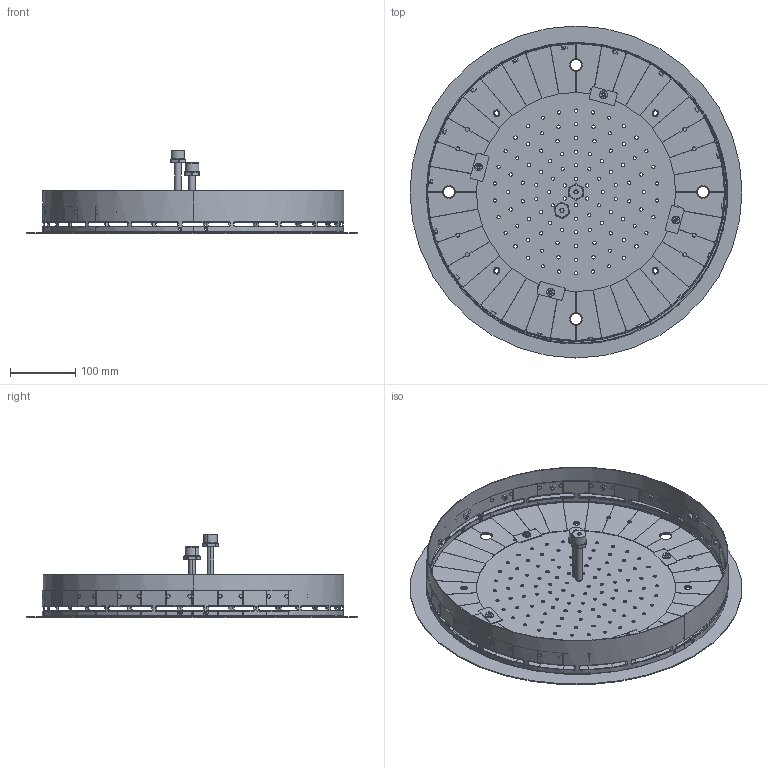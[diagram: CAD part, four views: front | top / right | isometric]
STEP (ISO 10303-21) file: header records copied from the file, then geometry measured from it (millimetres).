
FILE_DESCRIPTION (( 'STEP AP203' ), '1' );
FILE_NAME ('PIA30G.STEP', '2019-06-17T15:24:13', ( '' ), ( '' ), 'SwSTEP 2.0', 'SolidWorks 2014', '' );
FILE_SCHEMA (( 'CONFIG_CONTROL_DESIGN' ));
Length unit declared in the file: millimetre
Products named in the file (9): TUBONEB_GEDA UNICO; S-00207; ATT MEZZO POLL; S-00110_1; 22179; 21723_1; 22181; 22180; PIA30G
Assembly tree (37 placements, depth 2):
  PIA30G
    S-00110_1  x22
    22181
    S-00207  x4
    21723_1  x4
    22180
    22179
    ATT MEZZO POLL  x2
    TUBONEB_GEDA UNICO  x2
Bounding box: 510 x 510 x 128.78 mm (x, y, z)
Volume: 537384 mm3; surface area: 876744.7 mm2
Topology: 37 solids, 37 shells, 2745 faces, 6907 edges, 4010 vertices
Faces by surface type: cylinder 1454, plane 797, bspline 390, cone 104
Entity records: 62940 total; most frequent: CARTESIAN_POINT 17672, ORIENTED_EDGE 9236, DIRECTION 9004, EDGE_CURVE 4618, AXIS2_PLACEMENT_3D 3257, VERTEX_POINT 2907, LINE 2490, VECTOR 2490
